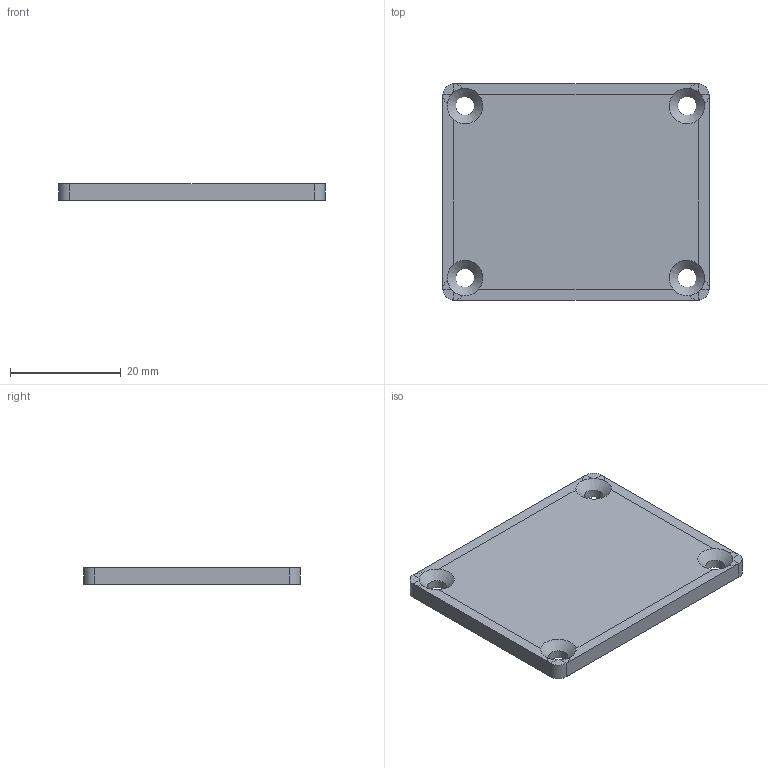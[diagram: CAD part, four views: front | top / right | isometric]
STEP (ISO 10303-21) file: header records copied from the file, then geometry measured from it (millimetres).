
FILE_DESCRIPTION(('Open CASCADE Model'),'2;1');
FILE_NAME('Open CASCADE Shape Model','2026-11-15T14:17:53',('Author'),( 'Open CASCADE'),'Open CASCADE STEP processor 8.0','Open CASCADE 8.0' ,'Unknown');
FILE_SCHEMA(('AUTOMOTIVE_DESIGN { 1 0 10303 214 1 1 1 1 }'));
Length unit declared in the file: millimetre
Products named in the file (1): Waveshare_Velcro_Tray
Bounding box: 48 x 39 x 3 mm (x, y, z)
Volume: 5434.5 mm3; surface area: 4278.5 mm2
Topology: 1 solids, 1 shells, 54 faces, 132 edges, 72 vertices
Faces by surface type: plane 42, cylinder 8, cone 4
Full cylindrical faces by diameter (mm): 3.4 x4
Entity records: 3319 total; most frequent: DIRECTION 580, CARTESIAN_POINT 525, ORIENTED_EDGE 264, PCURVE 264, DEFINITIONAL_REPRESENTATION 264, LINE 222, VECTOR 222, CIRCLE 172
